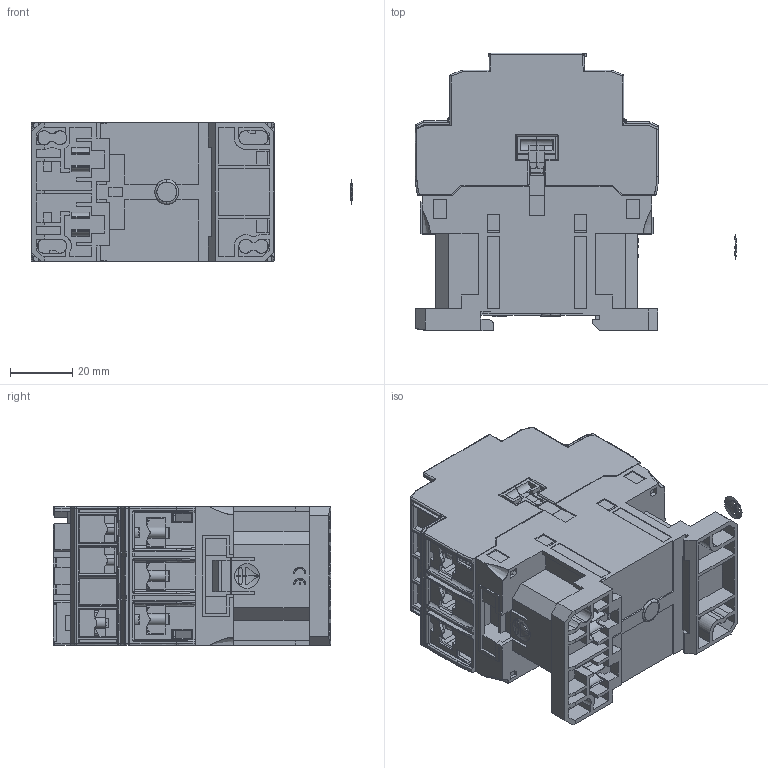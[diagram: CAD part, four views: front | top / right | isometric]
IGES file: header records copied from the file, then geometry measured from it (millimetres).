
Start section: SolidWorks IGES file using analytic representation for surfaces
Global section: file name: Q:\GROUPS\BR_SC_JGS_WA_TECNICO\ENG\Usuarios\Rodrigob\conversão\contatores\Produto\CWB9...18\CWB9...18 .IGS; native system: SolidWorks 2012; preprocessor: SolidWorks 2012; author: rodrigob; date: 140430.150906; units: millimetre
Bounding box: 103.7 x 89.45 x 44.8 mm (x, y, z)
Surface area: 75540.3 mm2 (no closed solid volume)
Topology: 0 solids, 0 shells, 3238 faces, 26381 edges, 26305 vertices
Faces by surface type: bspline 2441, revolution 797
